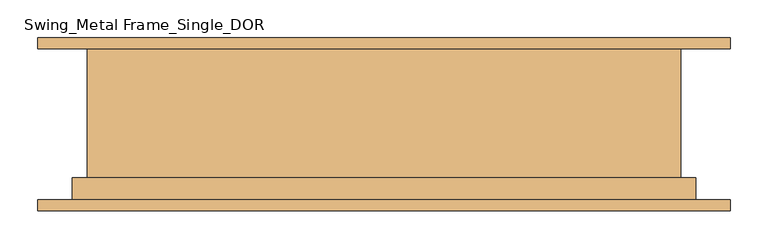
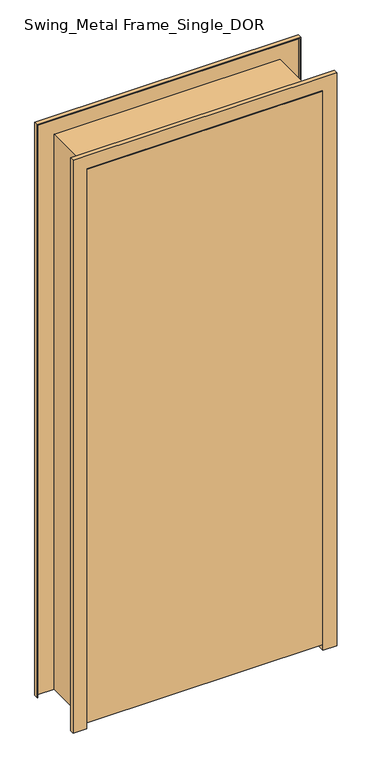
"""IFC4 building model written with IfcOpenShell, lengths in millimetres: door geometry, Swing_Metal Frame_Single_DOR : 2040h x 820 (2110x920 STUD)."""

import ifcopenshell
import ifcopenshell.guid

model = None  # the IFC model being written
_history = None  # IfcOwnerHistory: only IFC2X3 demands one
_inside = {}  # id of a spatial element -> (the spatial element, [elements in it])
_under = {}  # id of a project, library or spatial element -> (it, [spatial elements below it])
_declared = {}  # id of a project -> (the project, [libraries it declares])
_typed = {}  # id of a type object -> (the type object, [elements of that type])
_made_of = {}  # id of a material, layer set ... -> (it, [elements and type objects made of it])


def new_model(schema):
    """Start an empty IFC model of exactly this schema.

    Asked for "IFC4X3", IfcOpenShell would pick the latest addendum, in which some entities
    have other attributes; the version numbers below select the first issue.
    IFC2X3 requires an IfcOwnerHistory on every rooted entity: one is made here for all.
    """
    global model, _history
    if schema == "IFC4X3":
        model = ifcopenshell.file(schema_version=(4, 3, 0, 0))
    else:
        model = ifcopenshell.file(schema=schema)
    _inside.clear()
    _under.clear()
    _declared.clear()
    _typed.clear()
    _made_of.clear()
    _history = None
    if model.schema == "IFC2X3":
        org = make("IfcOrganization", Name="unknown")
        user = make(
            "IfcPersonAndOrganization",
            ThePerson=make("IfcPerson", FamilyName="unknown"),
            TheOrganization=org,
        )
        app = make(
            "IfcApplication",
            ApplicationDeveloper=org,
            Version="unknown",
            ApplicationFullName="unknown",
            ApplicationIdentifier="unknown",
        )
        _history = make(
            "IfcOwnerHistory",
            OwningUser=user,
            OwningApplication=app,
            ChangeAction="ADDED",
            CreationDate=0,
        )
    return model


def make(cls, **values):
    """One entity of the class cls with the attributes given. An attribute that is None is left unset."""
    return model.create_entity(
        cls, **{name: value for name, value in values.items() if value is not None}
    )


def rooted(cls, **values):
    """An entity with a GlobalId (a new one), such as an element, a storey or a relation."""
    return make(cls, GlobalId=ifcopenshell.guid.new(), OwnerHistory=_history, **values)


def si_unit(unit_type, name, prefix=None):
    """IfcSIUnit, for example si_unit("LENGTHUNIT", "METRE", prefix="MILLI")."""
    return make("IfcSIUnit", UnitType=unit_type, Prefix=prefix, Name=name)


def assignment(units):
    """IfcUnitAssignment: the units of a project."""
    return None if units is None else make("IfcUnitAssignment", Units=units)


def point(xyz):
    """IfcCartesianPoint."""
    return None if xyz is None else make("IfcCartesianPoint", Coordinates=xyz)


def direction(xyz):
    """IfcDirection."""
    return None if xyz is None else make("IfcDirection", DirectionRatios=xyz)


def frame(location, z_axis=None, x_axis=None):
    """IfcAxis2Placement3D, a coordinate frame: its origin and axes. An axis left out is left unset."""
    return make(
        "IfcAxis2Placement3D",
        Location=point(location),
        Axis=direction(z_axis),
        RefDirection=direction(x_axis),
    )


def origin():
    """The frame at (0, 0, 0) with its axes left unset."""
    return frame((0.0, 0.0, 0.0))


def place(relative_to, where):
    """IfcLocalPlacement: puts the frame where relative to a parent placement (None: the world)."""
    return make(
        "IfcLocalPlacement", PlacementRelTo=relative_to, RelativePlacement=where
    )


def context(
    kind, dimensions, precision=None, world=None, true_north=None, identifier=None
):
    """IfcGeometricRepresentationContext, for example the 3D "Model" context."""
    return make(
        "IfcGeometricRepresentationContext",
        ContextIdentifier=identifier,
        ContextType=kind,
        CoordinateSpaceDimension=dimensions,
        Precision=precision,
        WorldCoordinateSystem=world,
        TrueNorth=true_north,
    )


def project(units=None, contexts=None):
    """IfcProject with its units and contexts."""
    return rooted(
        "IfcProject",
        Name="project",
        RepresentationContexts=contexts,
        UnitsInContext=assignment(units),
    )


def spatial(cls, under=None, at=None, **own):
    """A site, building, storey or space (cls), placed at a placement, below another one or the project."""
    s = rooted(cls, ObjectPlacement=at, **own)
    if under is not None:
        _under.setdefault(under.id(), (under, []))[1].append(s)
    return s


def polyline(points):
    """IfcPolyline through the points."""
    return make("IfcPolyline", Points=[point(p) for p in points])


def outline(outer, holes=None, kind="AREA"):
    """IfcArbitraryClosedProfileDef: a profile drawn as a closed curve; with holes, ...WithVoids."""
    if holes is None:
        return make("IfcArbitraryClosedProfileDef", ProfileType=kind, OuterCurve=outer)
    return make(
        "IfcArbitraryProfileDefWithVoids",
        ProfileType=kind,
        OuterCurve=outer,
        InnerCurves=holes,
    )


def extrude(swept, where, along, depth):
    """IfcExtrudedAreaSolid: the profile swept, set in the frame where, extruded along a direction by depth."""
    return make(
        "IfcExtrudedAreaSolid",
        SweptArea=swept,
        Position=where,
        ExtrudedDirection=direction(along),
        Depth=depth,
    )


def faces_of(points, faces, orient=None, outer=None):
    """IfcFace entities. A face is a list of loops; a loop is a list of indices into points, from 0.

    orient and outer hold one flag for each loop. By default every Orientation is true, the
    first loop of a face is its IfcFaceOuterBound and the others are IfcFaceBound.
    """
    made = []
    for i, loops in enumerate(faces):
        bounds = []
        for j, loop in enumerate(loops):
            is_outer = j == 0 if outer is None else outer[i][j]
            bounds.append(
                make(
                    "IfcFaceOuterBound" if is_outer else "IfcFaceBound",
                    Bound=make("IfcPolyLoop", Polygon=[points[k] for k in loop]),
                    Orientation=True if orient is None else orient[i][j],
                )
            )
        made.append(make("IfcFace", Bounds=bounds))
    return made


def faceted_brep(points, faces, orient=None, outer=None, voids=None):
    """IfcFacetedBrep: a solid bounded by flat faces; with voids (closed shells), ...WithVoids."""
    shared = [point(p) for p in points]
    hull = make("IfcClosedShell", CfsFaces=faces_of(shared, faces, orient, outer))
    if voids is None:
        return make("IfcFacetedBrep", Outer=hull)
    return make(
        "IfcFacetedBrepWithVoids",
        Outer=hull,
        Voids=[
            make(cls, CfsFaces=faces_of(shared, fs, o, b)) for cls, fs, o, b in voids
        ],
    )


def shape(context_of_items, identifier, shape_type, items):
    """IfcShapeRepresentation: the items that make up one representation, for example the "Body"."""
    return make(
        "IfcShapeRepresentation",
        ContextOfItems=context_of_items,
        RepresentationIdentifier=identifier,
        RepresentationType=shape_type,
        Items=items,
    )


def source(mapping_origin, context_of_items, identifier, shape_type, items):
    """IfcRepresentationMap: a shape defined once, which mapped items show again and again."""
    return make(
        "IfcRepresentationMap",
        MappingOrigin=mapping_origin,
        MappedRepresentation=shape(context_of_items, identifier, shape_type, items),
    )


def transform(
    local_origin,
    x_axis=None,
    y_axis=None,
    z_axis=None,
    scale=None,
    scale2=None,
    scale3=None,
    uniform=True,
):
    """IfcCartesianTransformationOperator3D, or its non-uniform kind. x_axis, y_axis, z_axis: its Axis1, 2, 3."""
    if uniform:
        return make(
            "IfcCartesianTransformationOperator3D",
            Axis1=direction(x_axis),
            Axis2=direction(y_axis),
            LocalOrigin=point(local_origin),
            Scale=scale,
            Axis3=direction(z_axis),
        )
    return make(
        "IfcCartesianTransformationOperator3DnonUniform",
        Axis1=direction(x_axis),
        Axis2=direction(y_axis),
        LocalOrigin=point(local_origin),
        Scale=scale,
        Axis3=direction(z_axis),
        Scale2=scale2,
        Scale3=scale3,
    )


def mapped(mapping_source, mapping_target):
    """IfcMappedItem: shows the shape of a source again, moved by a transform."""
    return make(
        "IfcMappedItem", MappingSource=mapping_source, MappingTarget=mapping_target
    )


def made_of(thing, what):
    """Note that an element or type object is made of a material, layer set ...; save() writes the relation."""
    if what is not None:
        _made_of.setdefault(what.id(), (what, []))[1].append(thing)
    return thing


def element(
    cls,
    number,
    at=None,
    inside=None,
    cuts=None,
    type_object=None,
    material=None,
    context=None,
    identifier="Body",
    shape_type=None,
    held_by="IfcProductDefinitionShape",
    body=None,
    shapes=None,
    **own,
):
    """One element of the class cls, such as IfcWall. Its Tag is "e" and its number.

    at: its placement. inside: the storey or other place that contains it. cuts: it is an
    opening in that element (IfcRelVoidsElement). A single representation is given by context,
    identifier, shape_type and body (its items); several are given by shapes. held_by: the class
    of the entity that holds the representations. save() writes the other relations.
    """
    e = rooted(cls, Tag="e%d" % number, ObjectPlacement=at, **own)
    if body is not None:
        shapes = [shape(context, identifier, shape_type, body)]
    if shapes is not None:
        e.Representation = make(held_by, Representations=shapes)
    if inside is not None:
        _inside.setdefault(inside.id(), (inside, []))[1].append(e)
    if cuts is not None:
        rooted(
            "IfcRelVoidsElement", RelatingBuildingElement=cuts, RelatedOpeningElement=e
        )
    if type_object is not None:
        _typed.setdefault(type_object.id(), (type_object, []))[1].append(e)
    return made_of(e, material)


def aggregate(whole, parts):
    """IfcRelAggregates: a whole, such as a stair, and the parts it consists of."""
    return rooted("IfcRelAggregates", RelatingObject=whole, RelatedObjects=parts)


def save(model, path):
    """Write the relations noted so far, then the file.

    IfcRelAggregates (storeys below a building ...), IfcRelContainedInSpatialStructure (elements
    in a storey), IfcRelDefinesByType, IfcRelAssociatesMaterial and IfcRelDeclares: one each for
    every whole, place, type object, material and project.
    """
    for whole, parts in _under.values():
        aggregate(whole, parts)
    for where, things in _inside.values():
        rooted(
            "IfcRelContainedInSpatialStructure",
            RelatedElements=things,
            RelatingStructure=where,
        )
    for kind, things in _typed.values():
        rooted("IfcRelDefinesByType", RelatedObjects=things, RelatingType=kind)
    for what, things in _made_of.values():
        rooted("IfcRelAssociatesMaterial", RelatedObjects=things, RelatingMaterial=what)
    for by, libraries in _declared.values():
        rooted("IfcRelDeclares", RelatingContext=by, RelatedDefinitions=libraries)
    model.write(path)


def swing_metal_frame_single_dor_a0fb8dd1(model_context):
    return source(origin(), model_context, "Body", "SolidModel", [
        extrude(outline(polyline([(410.0, -115.0), (-410.0, -115.0), (-410.0, -75.0), (410.0, -75.0), (410.0, -115.0)])), frame((0.0, 0.0, 20.0), z_axis=(0.0, 0.0, 1.0), x_axis=(1.0, 0.0, 0.0)), (0.0, 0.0, 1.0), 2040.0),
        faceted_brep([(-460.0, 115.0, 0.0), (-392.0, 115.0, 0.0), (-392.0, -73.0, 0.0), (-412.0, -73.0, 0.0), (-412.0, -115.0, 0.0), (-460.0, -115.0, 0.0), (-460.0, -100.0, 0.0), (-458.0, -100.0, 0.0), (-458.0, -113.0, 0.0), (-414.0, -113.0, 0.0), (-414.0, -71.0, 0.0), (-394.0, -71.0, 0.0), (-394.0, 113.0, 0.0), (-458.0, 113.0, 0.0), (-458.0, 100.0, 0.0), (-460.0, 100.0, 0.0), (-460.0, 100.0, 2110.0), (-460.0, 115.0, 2110.0), (-458.0, 100.0, 2108.0), (458.0, 100.0, 2108.0), (458.0, 100.0, 0.0), (460.0, 100.0, 0.0), (460.0, 100.0, 2110.0), (-458.0, 113.0, 2108.0), (-394.0, 113.0, 2044.0), (394.0, 113.0, 2044.0), (394.0, 113.0, 0.0), (458.0, 113.0, 0.0), (458.0, 113.0, 2108.0), (-394.0, -71.0, 2044.0), (-414.0, -71.0, 2064.0), (414.0, -71.0, 2064.0), (414.0, -71.0, 0.0), (394.0, -71.0, 0.0), (394.0, -71.0, 2044.0), (-414.0, -113.0, 2064.0), (-458.0, -113.0, 2108.0), (458.0, -113.0, 2108.0), (458.0, -113.0, 0.0), (414.0, -113.0, 0.0), (414.0, -113.0, 2064.0), (-458.0, -100.0, 2108.0), (-460.0, -100.0, 2110.0), (460.0, -100.0, 2110.0), (460.0, -100.0, 0.0), (458.0, -100.0, 0.0), (458.0, -100.0, 2108.0), (-460.0, -115.0, 2110.0), (-412.0, -115.0, 2062.0), (412.0, -115.0, 2062.0), (412.0, -115.0, 0.0), (460.0, -115.0, 0.0), (460.0, -115.0, 2110.0), (-412.0, -73.0, 2062.0), (-392.0, -73.0, 2042.0), (392.0, -73.0, 2042.0), (392.0, -73.0, 0.0), (412.0, -73.0, 0.0), (412.0, -73.0, 2062.0), (-392.0, 115.0, 2042.0), (460.0, 115.0, 2110.0), (460.0, 115.0, 0.0), (392.0, 115.0, 0.0), (392.0, 115.0, 2042.0)], [[[0, 1, 2, 3, 4, 5, 6, 7, 8, 9, 10, 11, 12, 13, 14, 15]], [[15, 16, 17, 0]], [[14, 18, 19, 20, 21, 22, 16, 15]], [[13, 23, 18, 14]], [[12, 24, 25, 26, 27, 28, 23, 13]], [[11, 29, 24, 12]], [[10, 30, 31, 32, 33, 34, 29, 11]], [[9, 35, 30, 10]], [[8, 36, 37, 38, 39, 40, 35, 9]], [[7, 41, 36, 8]], [[6, 42, 43, 44, 45, 46, 41, 7]], [[5, 47, 42, 6]], [[4, 48, 49, 50, 51, 52, 47, 5]], [[3, 53, 48, 4]], [[2, 54, 55, 56, 57, 58, 53, 3]], [[1, 59, 54, 2]], [[0, 17, 60, 61, 62, 63, 59, 1]], [[22, 21, 61, 60]], [[61, 21, 20, 27, 26, 33, 32, 39, 38, 45, 44, 51, 50, 57, 56, 62]], [[28, 27, 20, 19]], [[34, 33, 26, 25]], [[40, 39, 32, 31]], [[46, 45, 38, 37]], [[52, 51, 44, 43]], [[58, 57, 50, 49]], [[63, 62, 56, 55]], [[16, 22, 60, 17]], [[23, 28, 19, 18]], [[29, 34, 25, 24]], [[35, 40, 31, 30]], [[41, 46, 37, 36]], [[47, 52, 43, 42]], [[53, 58, 49, 48]], [[59, 63, 55, 54]]]),
    ])


if __name__ == "__main__":
    model = new_model("IFC4")
    model_context = context("Model", 3, world=origin())
    ifc_project = project(units=[si_unit("LENGTHUNIT", "METRE", prefix="MILLI")], contexts=[model_context])
    site = spatial("IfcSite", under=ifc_project)
    building = spatial("IfcBuilding", under=site)
    placement = place(None, origin())
    swing_metal_frame_single_dor_shape = swing_metal_frame_single_dor_a0fb8dd1(model_context)
    element("IfcDoor", 1, ObjectType="Swing_Metal Frame_Single_DOR : 2040h x 820 (2110x920 STUD)", at=placement, inside=building, context=model_context, shape_type="MappedRepresentation", body=[
        mapped(swing_metal_frame_single_dor_shape, transform((0.0, 0.0, 0.0), x_axis=(1.0, 0.0, 0.0), y_axis=(0.0, 1.0, 0.0), z_axis=(0.0, 0.0, 1.0))),
    ])
    save(model, "model.ifc")
